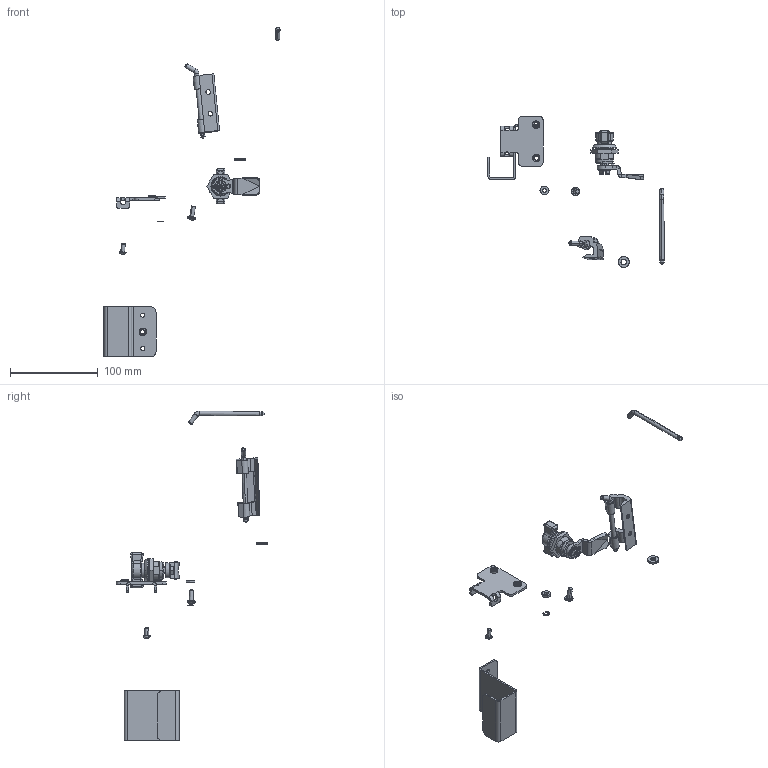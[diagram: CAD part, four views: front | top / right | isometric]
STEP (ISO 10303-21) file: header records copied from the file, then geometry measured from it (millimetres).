
FILE_DESCRIPTION((''),'2;1');
FILE_NAME('113347_ASM','2021-07-06T14:50:42',('dougp'),('SAGINAW CONTROL & ENGINEERING'),'CREO PARAMETRIC BY PTC INC, 2017260','CREO PARAMETRIC BY PTC INC, 2017260','');
FILE_SCHEMA(('AUTOMOTIVE_DESIGN { 1 0 10303 214 1 1 1 1 }'));
Length unit declared in the file: inch
Products named in the file (21): 115161-CATCH; 100022; 115161_ASM; 102483; 115751-BRKT; 115751_ASM; 101645; 102470; 101670; 101080_SHAFT; 101080_HANDLE; 101080_INSERT; 101080_NUT; 101080_SCREW; 102804_CAM_28MM; 101080_ASM; 102152; 101376; HINGE-PIN; 101376_ASM; 113347_ASM
Assembly tree (23 placements, depth 3):
  113347_ASM
    115161_ASM
      115161-CATCH
      100022
    102483
    115751_ASM
      115751-BRKT
      100022  x2
    101645
    102470
    101670
    101080_ASM
      101080_SHAFT
      101080_HANDLE
      101080_INSERT
      101080_NUT
      101080_SCREW
      102804_CAM_28MM
    102152
    101376_ASM
      101376
      HINGE-PIN
    HINGE-PIN
Bounding box: 201.12 x 172.71 x 376.31 mm (x, y, z)
Volume: 53241.1 mm3; surface area: 47713.9 mm2
Topology: 18 solids, 19 shells, 843 faces, 2075 edges, 1266 vertices
Faces by surface type: plane 370, cylinder 296, bspline 67, cone 56, torus 47, sphere 7
Entity records: 32369 total; most frequent: CARTESIAN_POINT 7410, DIRECTION 4085, ORIENTED_EDGE 3904, EDGE_CURVE 1952, AXIS2_PLACEMENT_3D 1523, VERTEX_POINT 1229, VECTOR 1039, LINE 1039
